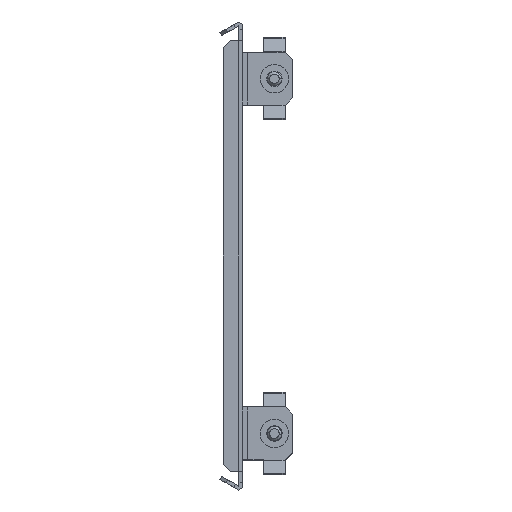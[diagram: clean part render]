
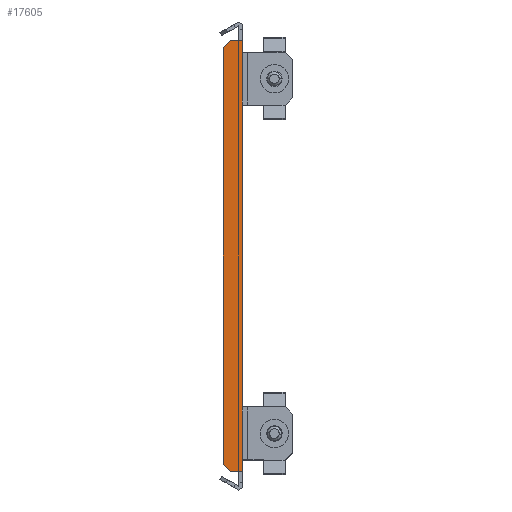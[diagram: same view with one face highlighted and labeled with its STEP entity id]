
A CAD part, front view. The second image highlights one B-rep face of the part: STEP entity #17605.
In plain terms, the highlighted planar face has unit normal (0, -1, 0).
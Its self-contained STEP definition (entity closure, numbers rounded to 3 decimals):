
#23 = LINE ( 'NONE', #19377, #14399 ) ;
#56 = ORIENTED_EDGE ( 'NONE', *, *, #19941, .T. ) ;
#470 = ORIENTED_EDGE ( 'NONE', *, *, #673, .T. ) ;
#537 = LINE ( 'NONE', #8644, #1293 ) ;
#673 = EDGE_CURVE ( 'NONE', #9162, #16994, #10845, .T. ) ;
#691 = DIRECTION ( 'NONE',  ( 1., 0., 0. ) ) ;
#850 = EDGE_CURVE ( 'NONE', #1459, #17223, #20271, .T. ) ;
#1051 = VERTEX_POINT ( 'NONE', #19321 ) ;
#1133 = DIRECTION ( 'NONE',  ( -1., 0., 0. ) ) ;
#1293 = VECTOR ( 'NONE', #2335, 1000. ) ;
#1303 = DIRECTION ( 'NONE',  ( 0.707, 0., -0.707 ) ) ;
#1459 = VERTEX_POINT ( 'NONE', #10041 ) ;
#1661 = EDGE_CURVE ( 'NONE', #16994, #10599, #23, .T. ) ;
#2260 = PLANE ( 'NONE',  #5839 ) ;
#2269 = EDGE_CURVE ( 'NONE', #19804, #1459, #537, .T. ) ;
#2335 = DIRECTION ( 'NONE',  ( 0., 0., 1. ) ) ;
#2601 = CARTESIAN_POINT ( 'NONE',  ( -8., -253., 0. ) ) ;
#2684 = CARTESIAN_POINT ( 'NONE',  ( 0., -253., -90.897 ) ) ;
#2910 = EDGE_LOOP ( 'NONE', ( #4439, #470, #16583, #56, #14614, #3217, #7855, #7515, #18751, #10846 ) ) ;
#3217 = ORIENTED_EDGE ( 'NONE', *, *, #2269, .T. ) ;
#3469 = CARTESIAN_POINT ( 'NONE',  ( 0., -253., 86.095 ) ) ;
#3675 = DIRECTION ( 'NONE',  ( 0., 0., 1. ) ) ;
#4439 = ORIENTED_EDGE ( 'NONE', *, *, #8828, .T. ) ;
#5164 = EDGE_CURVE ( 'NONE', #9167, #19804, #17710, .T. ) ;
#5731 = CARTESIAN_POINT ( 'NONE',  ( 0., -253., 0. ) ) ;
#5839 = AXIS2_PLACEMENT_3D ( 'NONE', #5731, #18251, #691 ) ;
#5848 = VECTOR ( 'NONE', #1133, 1000. ) ;
#5940 = VECTOR ( 'NONE', #11766, 1000. ) ;
#6465 = VECTOR ( 'NONE', #16039, 1000. ) ;
#6835 = VECTOR ( 'NONE', #8945, 1000. ) ;
#7515 = ORIENTED_EDGE ( 'NONE', *, *, #16488, .T. ) ;
#7569 = CARTESIAN_POINT ( 'NONE',  ( 0., -253., -63.75 ) ) ;
#7855 = ORIENTED_EDGE ( 'NONE', *, *, #850, .T. ) ;
#7969 = CARTESIAN_POINT ( 'NONE',  ( -8., -253., 87.897 ) ) ;
#7995 = VECTOR ( 'NONE', #15449, 1000. ) ;
#8241 = DIRECTION ( 'NONE',  ( 0., 0., 1. ) ) ;
#8644 = CARTESIAN_POINT ( 'NONE',  ( 0., -253., 0. ) ) ;
#8828 = EDGE_CURVE ( 'NONE', #11998, #9162, #17199, .T. ) ;
#8865 = CARTESIAN_POINT ( 'NONE',  ( -47.948, -253., 47.948 ) ) ;
#8945 = DIRECTION ( 'NONE',  ( 0., 0., 1. ) ) ;
#9030 = CARTESIAN_POINT ( 'NONE',  ( 0., -253., 63.75 ) ) ;
#9162 = VERTEX_POINT ( 'NONE', #12286 ) ;
#9167 = VERTEX_POINT ( 'NONE', #9030 ) ;
#9607 = CARTESIAN_POINT ( 'NONE',  ( 0., -253., 0. ) ) ;
#10041 = CARTESIAN_POINT ( 'NONE',  ( 0., -253., 90.897 ) ) ;
#10286 = CARTESIAN_POINT ( 'NONE',  ( 0., -253., 0. ) ) ;
#10599 = VERTEX_POINT ( 'NONE', #7569 ) ;
#10845 = LINE ( 'NONE', #14119, #6835 ) ;
#10846 = ORIENTED_EDGE ( 'NONE', *, *, #13314, .T. ) ;
#11674 = LINE ( 'NONE', #10286, #14225 ) ;
#11766 = DIRECTION ( 'NONE',  ( 1., 0., 0. ) ) ;
#11998 = VERTEX_POINT ( 'NONE', #20719 ) ;
#12286 = CARTESIAN_POINT ( 'NONE',  ( 0., -253., -90.897 ) ) ;
#12825 = CARTESIAN_POINT ( 'NONE',  ( 0., -253., -86.095 ) ) ;
#13314 = EDGE_CURVE ( 'NONE', #1051, #11998, #15412, .T. ) ;
#14119 = CARTESIAN_POINT ( 'NONE',  ( 0., -253., 0. ) ) ;
#14225 = VECTOR ( 'NONE', #3675, 1000. ) ;
#14399 = VECTOR ( 'NONE', #8241, 1000. ) ;
#14614 = ORIENTED_EDGE ( 'NONE', *, *, #5164, .T. ) ;
#14905 = FACE_OUTER_BOUND ( 'NONE', #2910, .T. ) ;
#15090 = DIRECTION ( 'NONE',  ( -0.707, 0., -0.707 ) ) ;
#15411 = VECTOR ( 'NONE', #15090, 1000. ) ;
#15412 = LINE ( 'NONE', #15725, #18369 ) ;
#15449 = DIRECTION ( 'NONE',  ( 0., 0., -1. ) ) ;
#15720 = EDGE_CURVE ( 'NONE', #15851, #1051, #18593, .T. ) ;
#15725 = CARTESIAN_POINT ( 'NONE',  ( -47.948, -253., -47.948 ) ) ;
#15851 = VERTEX_POINT ( 'NONE', #7969 ) ;
#15869 = CARTESIAN_POINT ( 'NONE',  ( -5., -253., 90.897 ) ) ;
#16039 = DIRECTION ( 'NONE',  ( 0., 0., 1. ) ) ;
#16488 = EDGE_CURVE ( 'NONE', #17223, #15851, #20219, .T. ) ;
#16583 = ORIENTED_EDGE ( 'NONE', *, *, #1661, .T. ) ;
#16994 = VERTEX_POINT ( 'NONE', #12825 ) ;
#17199 = LINE ( 'NONE', #2684, #5940 ) ;
#17223 = VERTEX_POINT ( 'NONE', #15869 ) ;
#17233 = CARTESIAN_POINT ( 'NONE',  ( 0., -253., 90.897 ) ) ;
#17605 = ADVANCED_FACE ( 'NONE', ( #14905 ), #2260, .F. ) ;
#17710 = LINE ( 'NONE', #9607, #6465 ) ;
#18251 = DIRECTION ( 'NONE',  ( 0., 1., 0. ) ) ;
#18369 = VECTOR ( 'NONE', #1303, 1000. ) ;
#18593 = LINE ( 'NONE', #2601, #7995 ) ;
#18751 = ORIENTED_EDGE ( 'NONE', *, *, #15720, .T. ) ;
#19321 = CARTESIAN_POINT ( 'NONE',  ( -8., -253., -87.897 ) ) ;
#19377 = CARTESIAN_POINT ( 'NONE',  ( 0., -253., 0. ) ) ;
#19804 = VERTEX_POINT ( 'NONE', #3469 ) ;
#19941 = EDGE_CURVE ( 'NONE', #10599, #9167, #11674, .T. ) ;
#20219 = LINE ( 'NONE', #8865, #15411 ) ;
#20271 = LINE ( 'NONE', #17233, #5848 ) ;
#20719 = CARTESIAN_POINT ( 'NONE',  ( -5., -253., -90.897 ) ) ;
